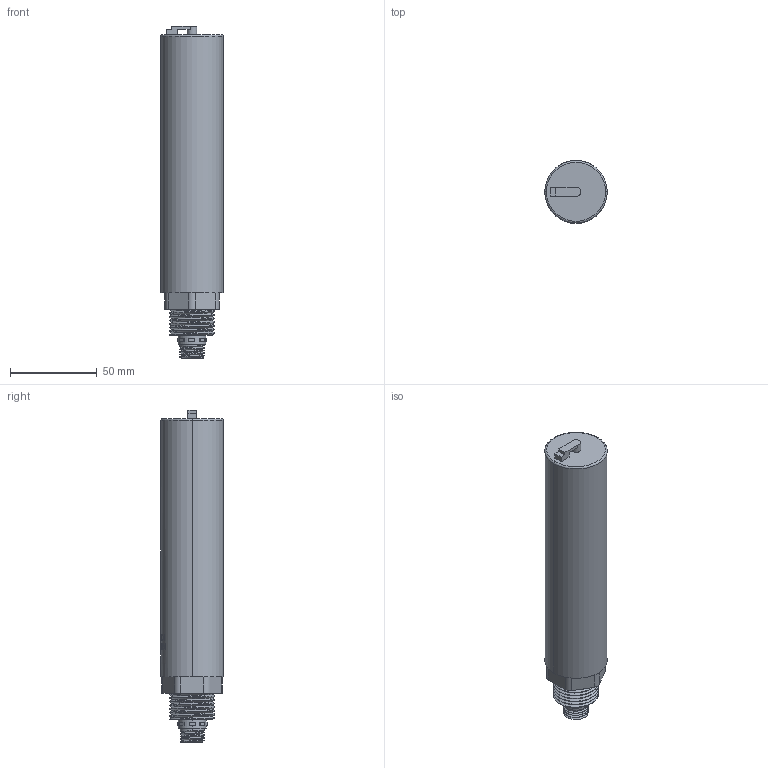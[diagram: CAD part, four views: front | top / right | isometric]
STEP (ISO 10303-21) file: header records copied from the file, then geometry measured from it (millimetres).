
FILE_DESCRIPTION((''),'2;1');
FILE_NAME('ASM0005_ASM','2025-12-26T17:32:59',('28740194'),(''),'CREO PARAMETRIC BY PTC INC, 2024063','CREO PARAMETRIC BY PTC INC, 2024063','');
FILE_SCHEMA(('CONFIG_CONTROL_DESIGN'));
Length unit declared in the file: millimetre
Products named in the file (5): KWS-900-B; 0001; 222000; 260_ASM; ASM0005_ASM
Assembly tree (4 placements, depth 3):
  ASM0005_ASM
    KWS-900-B
    260_ASM
      0001
      222000
Bounding box: 36 x 36.21 x 191.1 mm (x, y, z)
Volume: 8712.2 mm3; surface area: 24669.6 mm2
Topology: 2 solids, 5 shells, 474 faces, 1321 edges, 882 vertices
Faces by surface type: bspline 343, plane 68, cylinder 61, torus 2
Entity records: 23112 total; most frequent: CARTESIAN_POINT 13386, ORIENTED_EDGE 2618, EDGE_CURVE 1321, DIRECTION 925, VERTEX_POINT 882, B_SPLINE_CURVE_WITH_KNOTS 875, EDGE_LOOP 504, FACE_OUTER_BOUND 474
